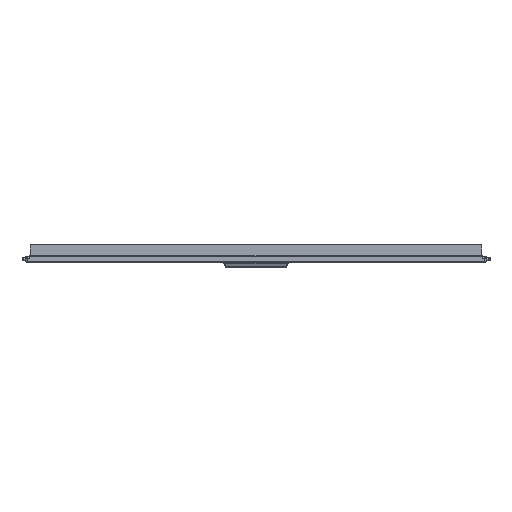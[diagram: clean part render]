
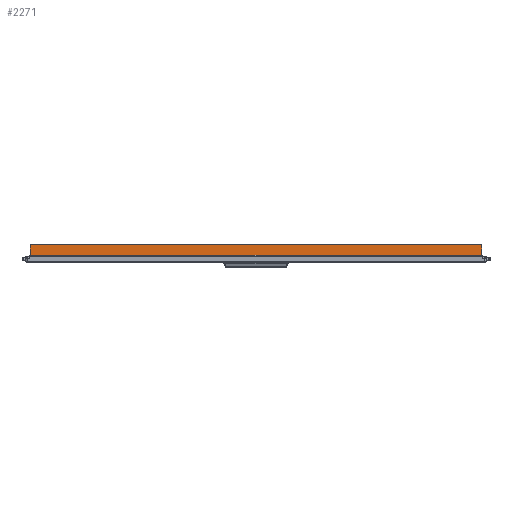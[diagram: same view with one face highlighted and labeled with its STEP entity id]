
A CAD part, left-side view. The second image highlights one B-rep face of the part: STEP entity #2271.
In plain terms, the highlighted planar face has unit normal (-1, 0, 0).
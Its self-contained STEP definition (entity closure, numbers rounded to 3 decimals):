
#218 = VECTOR ( 'NONE', #3824, 1000. ) ;
#616 = ORIENTED_EDGE ( 'NONE', *, *, #1076, .T. ) ;
#621 = ORIENTED_EDGE ( 'NONE', *, *, #2468, .T. ) ;
#622 = ORIENTED_EDGE ( 'NONE', *, *, #2470, .F. ) ;
#624 = ORIENTED_EDGE ( 'NONE', *, *, #2471, .F. ) ;
#1076 = EDGE_CURVE ( 'NONE', #6756, #6915, #3822, .T. ) ;
#2030 = FACE_OUTER_BOUND ( 'NONE', #6485, .T. ) ;
#2056 = AXIS2_PLACEMENT_3D ( 'NONE', #4685, #4686, #4687 ) ;
#2271 = ADVANCED_FACE ( 'NONE', ( #2030 ), #4684, .F. ) ;
#2468 = EDGE_CURVE ( 'NONE', #6579, #6756, #5300, .T. ) ;
#2470 = EDGE_CURVE ( 'NONE', #6552, #6915, #5306, .T. ) ;
#2471 = EDGE_CURVE ( 'NONE', #6579, #6552, #5309, .T. ) ;
#3822 = LINE ( 'NONE', #3823, #218 ) ;
#3823 = CARTESIAN_POINT ( 'NONE',  ( -224.6, -556.75, -12. ) ) ;
#3824 = DIRECTION ( 'NONE',  ( 0., -1., 0. ) ) ;
#4684 = PLANE ( 'NONE',  #2056 ) ;
#4685 = CARTESIAN_POINT ( 'NONE',  ( -224.6, -556.75, 29.5 ) ) ;
#4686 = DIRECTION ( 'NONE',  ( 1., 0., 0. ) ) ;
#4687 = DIRECTION ( 'NONE',  ( 0., 0., -1. ) ) ;
#5300 = LINE ( 'NONE', #5301, #6110 ) ;
#5301 = CARTESIAN_POINT ( 'NONE',  ( -224.6, 556.75, 29.5 ) ) ;
#5302 = DIRECTION ( 'NONE',  ( 0., 0., -1. ) ) ;
#5306 = LINE ( 'NONE', #5307, #6112 ) ;
#5307 = CARTESIAN_POINT ( 'NONE',  ( -224.6, -556.75, 29.5 ) ) ;
#5308 = DIRECTION ( 'NONE',  ( 0., 0., -1. ) ) ;
#5309 = LINE ( 'NONE', #5310, #6113 ) ;
#5310 = CARTESIAN_POINT ( 'NONE',  ( -224.6, -556.75, 29.5 ) ) ;
#5311 = DIRECTION ( 'NONE',  ( 0., -1., 0. ) ) ;
#5611 = CARTESIAN_POINT ( 'NONE',  ( -224.6, -556.75, 29.5 ) ) ;
#5638 = CARTESIAN_POINT ( 'NONE',  ( -224.6, 556.75, 29.5 ) ) ;
#5763 = CARTESIAN_POINT ( 'NONE',  ( -224.6, 556.75, -12. ) ) ;
#5910 = CARTESIAN_POINT ( 'NONE',  ( -224.6, -556.75, -12. ) ) ;
#6110 = VECTOR ( 'NONE', #5302, 1000. ) ;
#6112 = VECTOR ( 'NONE', #5308, 1000. ) ;
#6113 = VECTOR ( 'NONE', #5311, 1000. ) ;
#6485 = EDGE_LOOP ( 'NONE', ( #616, #622, #624, #621 ) ) ;
#6552 = VERTEX_POINT ( 'NONE', #5611 ) ;
#6579 = VERTEX_POINT ( 'NONE', #5638 ) ;
#6756 = VERTEX_POINT ( 'NONE', #5763 ) ;
#6915 = VERTEX_POINT ( 'NONE', #5910 ) ;
